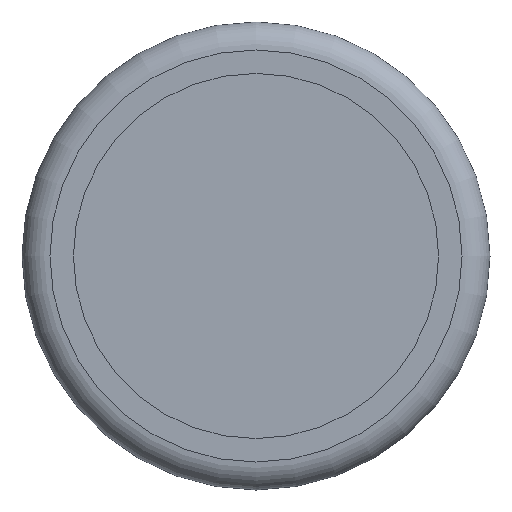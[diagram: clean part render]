
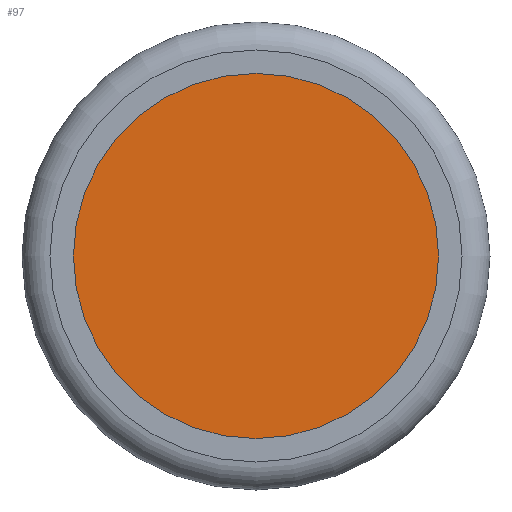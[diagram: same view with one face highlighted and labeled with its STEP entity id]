
A CAD part, front view. The second image highlights one B-rep face of the part: STEP entity #97.
In plain terms, the highlighted planar face has unit normal (0, -1, 0).
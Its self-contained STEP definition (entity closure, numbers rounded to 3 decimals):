
#17=PLANE('',#110);
#30=FACE_OUTER_BOUND('',#40,.T.);
#40=EDGE_LOOP('',(#80));
#54=CIRCLE('',#108,37.);
#62=VERTEX_POINT('',#162);
#70=EDGE_CURVE('',#62,#62,#54,.T.);
#80=ORIENTED_EDGE('',*,*,#70,.F.);
#97=ADVANCED_FACE('',(#30),#17,.F.);
#108=AXIS2_PLACEMENT_3D('',#163,#128,#129);
#110=AXIS2_PLACEMENT_3D('',#166,#132,#133);
#128=DIRECTION('center_axis',(0.,1.,0.));
#129=DIRECTION('ref_axis',(-1.,0.,0.));
#132=DIRECTION('center_axis',(0.,1.,0.));
#133=DIRECTION('ref_axis',(0.,0.,1.));
#162=CARTESIAN_POINT('',(37.,10.5,0.));
#163=CARTESIAN_POINT('Origin',(0.,10.5,0.));
#166=CARTESIAN_POINT('Origin',(0.,10.5,0.));
